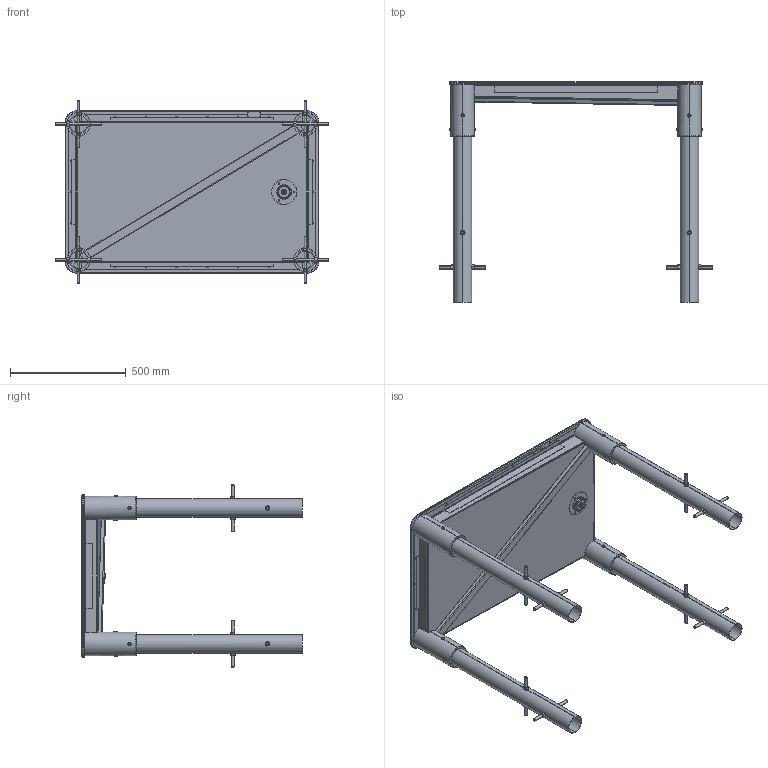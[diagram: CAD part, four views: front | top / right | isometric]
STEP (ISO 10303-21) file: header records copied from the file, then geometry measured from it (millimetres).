
FILE_DESCRIPTION (( 'STEP AP214' ), '1' );
FILE_NAME ('570.202.010.012 - Mud pool 15cm CA.STEP', '2021-03-25T08:20:35', ( '' ), ( '' ), 'SwSTEP 2.0', 'SolidWorks 2018', '' );
FILE_SCHEMA (( 'AUTOMOTIVE_DESIGN' ));
Length unit declared in the file: millimetre
Products named in the file (1): 570.202.010.012 - Mud pool 15cm CA
Bounding box: 1178 x 951.1 x 785 mm (x, y, z)
Surface area: 4438939.3 mm2 (no closed solid volume)
Topology: 0 solids, 172 shells, 855 faces, 2982 edges, 2108 vertices
Faces by surface type: plane 293, cylinder 255, cone 109, bspline 96, torus 68, sphere 34
Entity records: 50869 total; most frequent: CARTESIAN_POINT 17480, DIRECTION 5016, ORIENTED_EDGE 4290, EDGE_CURVE 2958, VERTEX_POINT 2108, AXIS2_PLACEMENT_3D 2010, CIRCLE 1250, LINE 996
